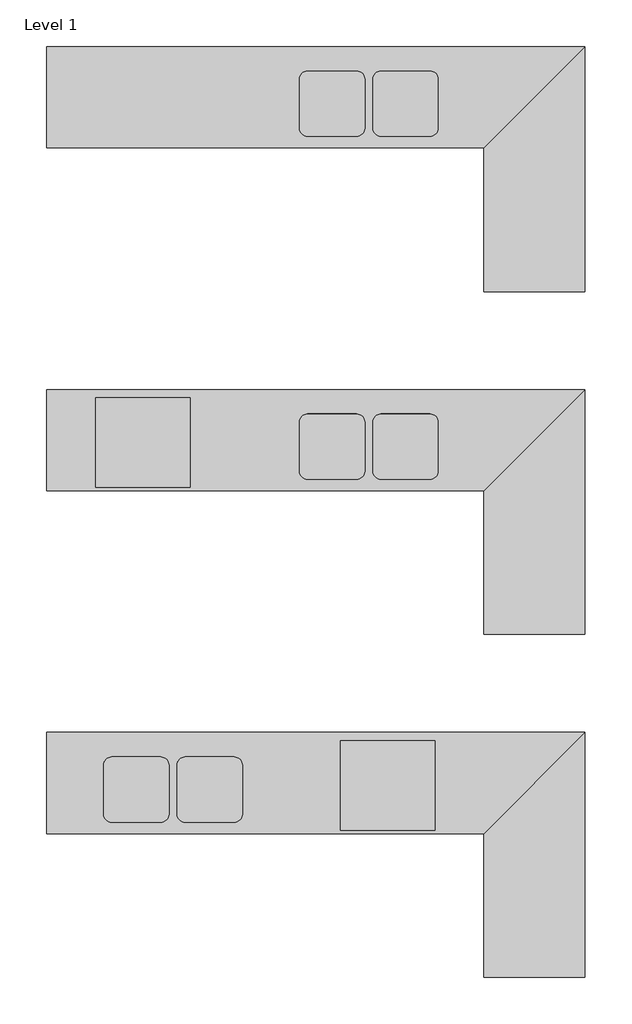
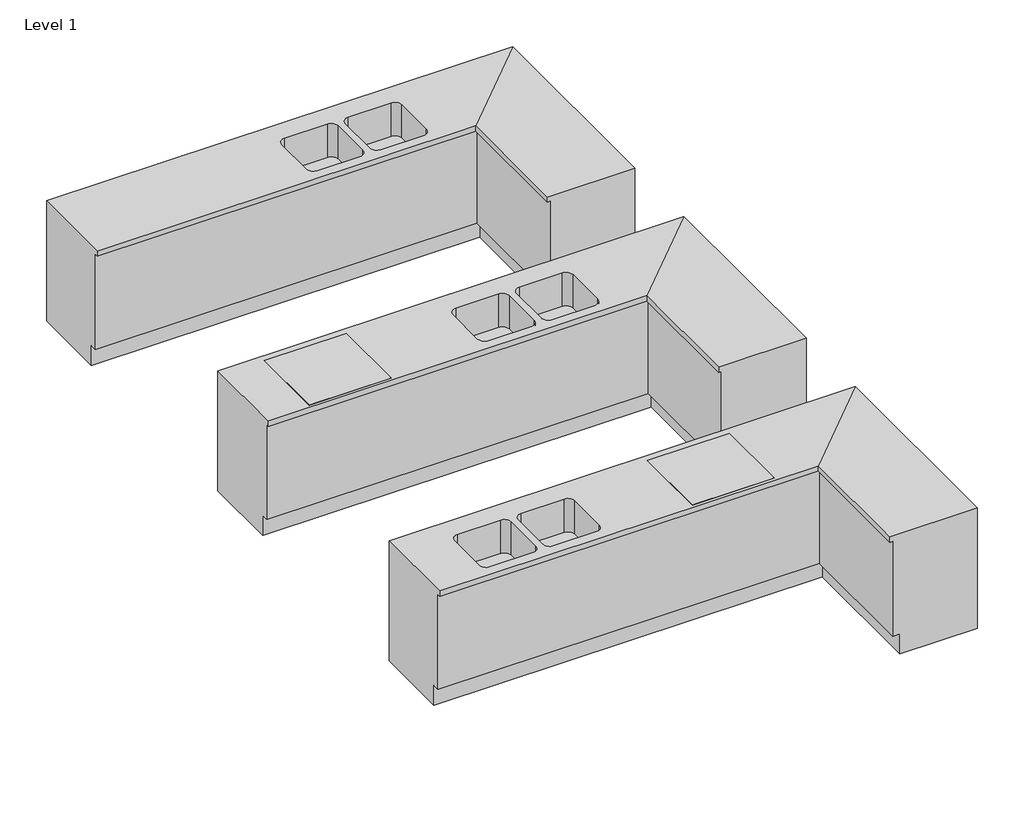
# One storey: 3 furniture elements.
"""IFC4 building model written with IfcOpenShell, lengths in millimetres."""

import ifcopenshell
import ifcopenshell.guid

model = None  # the IFC model being written
_history = None  # IfcOwnerHistory: only IFC2X3 demands one
_inside = {}  # id of a spatial element -> (the spatial element, [elements in it])
_under = {}  # id of a project, library or spatial element -> (it, [spatial elements below it])
_declared = {}  # id of a project -> (the project, [libraries it declares])
_typed = {}  # id of a type object -> (the type object, [elements of that type])
_made_of = {}  # id of a material, layer set ... -> (it, [elements and type objects made of it])


def new_model(schema):
    """Start an empty IFC model of exactly this schema.

    Asked for "IFC4X3", IfcOpenShell would pick the latest addendum, in which some entities
    have other attributes; the version numbers below select the first issue.
    IFC2X3 requires an IfcOwnerHistory on every rooted entity: one is made here for all.
    """
    global model, _history
    if schema == "IFC4X3":
        model = ifcopenshell.file(schema_version=(4, 3, 0, 0))
    else:
        model = ifcopenshell.file(schema=schema)
    _inside.clear()
    _under.clear()
    _declared.clear()
    _typed.clear()
    _made_of.clear()
    _history = None
    if model.schema == "IFC2X3":
        org = make("IfcOrganization", Name="unknown")
        user = make(
            "IfcPersonAndOrganization",
            ThePerson=make("IfcPerson", FamilyName="unknown"),
            TheOrganization=org,
        )
        app = make(
            "IfcApplication",
            ApplicationDeveloper=org,
            Version="unknown",
            ApplicationFullName="unknown",
            ApplicationIdentifier="unknown",
        )
        _history = make(
            "IfcOwnerHistory",
            OwningUser=user,
            OwningApplication=app,
            ChangeAction="ADDED",
            CreationDate=0,
        )
    return model


def make(cls, **values):
    """One entity of the class cls with the attributes given. An attribute that is None is left unset."""
    return model.create_entity(
        cls, **{name: value for name, value in values.items() if value is not None}
    )


def rooted(cls, **values):
    """An entity with a GlobalId (a new one), such as an element, a storey or a relation."""
    return make(cls, GlobalId=ifcopenshell.guid.new(), OwnerHistory=_history, **values)


def si_unit(unit_type, name, prefix=None):
    """IfcSIUnit, for example si_unit("LENGTHUNIT", "METRE", prefix="MILLI")."""
    return make("IfcSIUnit", UnitType=unit_type, Prefix=prefix, Name=name)


def assignment(units):
    """IfcUnitAssignment: the units of a project."""
    return None if units is None else make("IfcUnitAssignment", Units=units)


def point(xyz):
    """IfcCartesianPoint."""
    return None if xyz is None else make("IfcCartesianPoint", Coordinates=xyz)


def direction(xyz):
    """IfcDirection."""
    return None if xyz is None else make("IfcDirection", DirectionRatios=xyz)


def frame(location, z_axis=None, x_axis=None):
    """IfcAxis2Placement3D, a coordinate frame: its origin and axes. An axis left out is left unset."""
    return make(
        "IfcAxis2Placement3D",
        Location=point(location),
        Axis=direction(z_axis),
        RefDirection=direction(x_axis),
    )


def origin():
    """The frame at (0, 0, 0) with its axes left unset."""
    return frame((0.0, 0.0, 0.0))


def place(relative_to, where):
    """IfcLocalPlacement: puts the frame where relative to a parent placement (None: the world)."""
    return make(
        "IfcLocalPlacement", PlacementRelTo=relative_to, RelativePlacement=where
    )


def context(
    kind, dimensions, precision=None, world=None, true_north=None, identifier=None
):
    """IfcGeometricRepresentationContext, for example the 3D "Model" context."""
    return make(
        "IfcGeometricRepresentationContext",
        ContextIdentifier=identifier,
        ContextType=kind,
        CoordinateSpaceDimension=dimensions,
        Precision=precision,
        WorldCoordinateSystem=world,
        TrueNorth=true_north,
    )


def project(units=None, contexts=None):
    """IfcProject with its units and contexts."""
    return rooted(
        "IfcProject",
        Name="project",
        RepresentationContexts=contexts,
        UnitsInContext=assignment(units),
    )


def spatial(cls, under=None, at=None, **own):
    """A site, building, storey or space (cls), placed at a placement, below another one or the project."""
    s = rooted(cls, ObjectPlacement=at, **own)
    if under is not None:
        _under.setdefault(under.id(), (under, []))[1].append(s)
    return s


def polyline(points):
    """IfcPolyline through the points."""
    return make("IfcPolyline", Points=[point(p) for p in points])


def circle_curve(where, radius):
    """IfcCircle in the frame where."""
    return make("IfcCircle", Position=where, Radius=radius)


def outline(outer, holes=None, kind="AREA"):
    """IfcArbitraryClosedProfileDef: a profile drawn as a closed curve; with holes, ...WithVoids."""
    if holes is None:
        return make("IfcArbitraryClosedProfileDef", ProfileType=kind, OuterCurve=outer)
    return make(
        "IfcArbitraryProfileDefWithVoids",
        ProfileType=kind,
        OuterCurve=outer,
        InnerCurves=holes,
    )


def extrude(swept, where, along, depth):
    """IfcExtrudedAreaSolid: the profile swept, set in the frame where, extruded along a direction by depth."""
    return make(
        "IfcExtrudedAreaSolid",
        SweptArea=swept,
        Position=where,
        ExtrudedDirection=direction(along),
        Depth=depth,
    )


def shape(context_of_items, identifier, shape_type, items):
    """IfcShapeRepresentation: the items that make up one representation, for example the "Body"."""
    return make(
        "IfcShapeRepresentation",
        ContextOfItems=context_of_items,
        RepresentationIdentifier=identifier,
        RepresentationType=shape_type,
        Items=items,
    )


def source(mapping_origin, context_of_items, identifier, shape_type, items):
    """IfcRepresentationMap: a shape defined once, which mapped items show again and again."""
    return make(
        "IfcRepresentationMap",
        MappingOrigin=mapping_origin,
        MappedRepresentation=shape(context_of_items, identifier, shape_type, items),
    )


def transform(
    local_origin,
    x_axis=None,
    y_axis=None,
    z_axis=None,
    scale=None,
    scale2=None,
    scale3=None,
    uniform=True,
):
    """IfcCartesianTransformationOperator3D, or its non-uniform kind. x_axis, y_axis, z_axis: its Axis1, 2, 3."""
    if uniform:
        return make(
            "IfcCartesianTransformationOperator3D",
            Axis1=direction(x_axis),
            Axis2=direction(y_axis),
            LocalOrigin=point(local_origin),
            Scale=scale,
            Axis3=direction(z_axis),
        )
    return make(
        "IfcCartesianTransformationOperator3DnonUniform",
        Axis1=direction(x_axis),
        Axis2=direction(y_axis),
        LocalOrigin=point(local_origin),
        Scale=scale,
        Axis3=direction(z_axis),
        Scale2=scale2,
        Scale3=scale3,
    )


def mapped(mapping_source, mapping_target):
    """IfcMappedItem: shows the shape of a source again, moved by a transform."""
    return make(
        "IfcMappedItem", MappingSource=mapping_source, MappingTarget=mapping_target
    )


def made_of(thing, what):
    """Note that an element or type object is made of a material, layer set ...; save() writes the relation."""
    if what is not None:
        _made_of.setdefault(what.id(), (what, []))[1].append(thing)
    return thing


def element(
    cls,
    number,
    at=None,
    inside=None,
    cuts=None,
    type_object=None,
    material=None,
    context=None,
    identifier="Body",
    shape_type=None,
    held_by="IfcProductDefinitionShape",
    body=None,
    shapes=None,
    **own,
):
    """One element of the class cls, such as IfcWall. Its Tag is "e" and its number.

    at: its placement. inside: the storey or other place that contains it. cuts: it is an
    opening in that element (IfcRelVoidsElement). A single representation is given by context,
    identifier, shape_type and body (its items); several are given by shapes. held_by: the class
    of the entity that holds the representations. save() writes the other relations.
    """
    e = rooted(cls, Tag="e%d" % number, ObjectPlacement=at, **own)
    if body is not None:
        shapes = [shape(context, identifier, shape_type, body)]
    if shapes is not None:
        e.Representation = make(held_by, Representations=shapes)
    if inside is not None:
        _inside.setdefault(inside.id(), (inside, []))[1].append(e)
    if cuts is not None:
        rooted(
            "IfcRelVoidsElement", RelatingBuildingElement=cuts, RelatedOpeningElement=e
        )
    if type_object is not None:
        _typed.setdefault(type_object.id(), (type_object, []))[1].append(e)
    return made_of(e, material)


def aggregate(whole, parts):
    """IfcRelAggregates: a whole, such as a stair, and the parts it consists of."""
    return rooted("IfcRelAggregates", RelatingObject=whole, RelatedObjects=parts)


def save(model, path):
    """Write the relations noted so far, then the file.

    IfcRelAggregates (storeys below a building ...), IfcRelContainedInSpatialStructure (elements
    in a storey), IfcRelDefinesByType, IfcRelAssociatesMaterial and IfcRelDeclares: one each for
    every whole, place, type object, material and project.
    """
    for whole, parts in _under.values():
        aggregate(whole, parts)
    for where, things in _inside.values():
        rooted(
            "IfcRelContainedInSpatialStructure",
            RelatedElements=things,
            RelatingStructure=where,
        )
    for kind, things in _typed.values():
        rooted("IfcRelDefinesByType", RelatedObjects=things, RelatingType=kind)
    for what, things in _made_of.values():
        rooted("IfcRelAssociatesMaterial", RelatedObjects=things, RelatingMaterial=what)
    for by, libraries in _declared.values():
        rooted("IfcRelDeclares", RelatingContext=by, RelatedDefinitions=libraries)
    model.write(path)


def plane_surface(at):
    """IfcPlane: the flat surface through the origin of the frame at, square to its z axis."""
    return make("IfcPlane", Position=at)


def revolved_surface(curve, axis_point, axis_direction):
    """IfcSurfaceOfRevolution: the curve turned about the line through axis_point along axis_direction."""
    return make(
        "IfcSurfaceOfRevolution",
        SweptCurve=make("IfcArbitraryOpenProfileDef", ProfileType="CURVE", Curve=curve),
        AxisPosition=make("IfcAxis1Placement", Location=point(axis_point), Axis=direction(axis_direction)),
    )


def advanced_brep(points, edges, surfaces, faces):
    """IfcAdvancedBrep: a solid bounded by faces that lie on surfaces and meet in shared edges.

    An edge is (start, end): straight between two places in points (the first is 0);
    or (start, end, curve); or (start, end, curve, False) where it runs against its curve.
    A face is (place in surfaces, loops), or (place, loops, False) where it looks against
    its surface's normal. A loop lists edges by number (the first is 1), with a minus sign
    where the edge is run from its end to its start. The first loop is the outer one.
    """
    corners = [point(p) for p in points]
    vertices = [make("IfcVertexPoint", VertexGeometry=c) for c in corners]
    made = []
    for start, end, *more in edges:
        made.append(
            make(
                "IfcEdgeCurve",
                EdgeStart=vertices[start],
                EdgeEnd=vertices[end],
                EdgeGeometry=more[0] if more else make("IfcPolyline", Points=[corners[start], corners[end]]),
                SameSense=more[1] if len(more) > 1 else True,
            )
        )
    hull = []
    for where, loops, *sense in faces:
        bounds = []
        for j, loop in enumerate(loops):
            ring = [make("IfcOrientedEdge", EdgeElement=made[abs(k) - 1], Orientation=k > 0) for k in loop]
            bounds.append(
                make(
                    "IfcFaceOuterBound" if j == 0 else "IfcFaceBound",
                    Bound=make("IfcEdgeLoop", EdgeList=ring),
                    Orientation=True,
                )
            )
        hull.append(make("IfcAdvancedFace", Bounds=bounds, FaceSurface=surfaces[where], SameSense=sense[0] if sense else True))
    return make("IfcAdvancedBrep", Outer=make("IfcClosedShell", CfsFaces=hull))


def furniture_9805b7c2(model_context):
    return source(origin(), model_context, "Body", "AdvancedBrep", [
        advanced_brep(
        [(-2769.8761694, -550.0, 0.0), (-2769.8761694, -550.0, 150.0), (-2769.8761694, -600.0, 150.0), (-2769.8761694, -600.0, 860.0), (-2769.8761694, -620.0, 860.0), (-2769.8761694, -620.0, 900.0), (-2769.8761694, 0.0, 900.0), (-2769.8761694, 0.0, 0.0), (-19.8761694, -550.0, 0.0), (-19.8761694, -550.0, 150.0), (-69.8761694, -600.0, 150.0), (-69.8761694, -600.0, 860.0), (-89.8761694, -620.0, 860.0), (-89.8761694, -620.0, 900.0), (530.1238306, 0.0, 900.0), (-1169.8761694, -150.0, 900.0), (-869.8761694, -150.0, 900.0), (-819.8761694, -200.0, 900.0), (-819.8761694, -500.0, 900.0), (-869.8761694, -550.0, 900.0), (-1169.8761694, -550.0, 900.0), (-1219.8761694, -500.0, 900.0), (-1219.8761694, -200.0, 900.0), (-719.8761694, -150.0, 900.0), (-419.8761694, -150.0, 900.0), (-369.8761694, -200.0, 900.0), (-369.8761694, -500.0, 900.0), (-419.8761694, -550.0, 900.0), (-719.8761694, -550.0, 900.0), (-769.8761694, -500.0, 900.0), (-769.8761694, -200.0, 900.0), (530.1238306, 0.0, 0.0), (-19.8761694, -1500.0, 0.0), (530.1238306, -1500.0, 0.0), (530.1238306, -1500.0, 900.0), (-89.8761694, -1500.0, 900.0), (-89.8761694, -1500.0, 860.0), (-69.8761694, -1500.0, 860.0), (-69.8761694, -1500.0, 150.0), (-19.8761694, -1500.0, 150.0), (-869.8761694, -150.0, 650.0), (-1169.8761694, -150.0, 650.0), (-1219.8761694, -200.0, 650.0), (-1219.8761694, -500.0, 650.0), (-1169.8761694, -550.0, 650.0), (-869.8761694, -550.0, 650.0), (-819.8761694, -500.0, 650.0), (-819.8761694, -200.0, 650.0), (-419.8761694, -150.0, 650.0), (-719.8761694, -150.0, 650.0), (-769.8761694, -200.0, 650.0), (-769.8761694, -500.0, 650.0), (-719.8761694, -550.0, 650.0), (-419.8761694, -550.0, 650.0), (-369.8761694, -500.0, 650.0), (-369.8761694, -200.0, 650.0)],
        [
            (0, 1),
            (1, 2),
            (2, 3),
            (3, 4),
            (4, 5),
            (5, 6),
            (6, 7),
            (7, 0),
            (0, 8),
            (8, 9),
            (9, 1),
            (9, 10),
            (10, 2),
            (10, 11),
            (11, 3),
            (11, 12),
            (12, 4),
            (12, 13),
            (13, 5),
            (13, 14),
            (14, 6),
            (15, 16),
            (16, 17, circle_curve(frame((-869.8761694, -200.0, 900.0), z_axis=(0.0, 0.0, -1.0), x_axis=(0.0, -1.0, 0.0)), 50.0)),
            (17, 18),
            (18, 19, circle_curve(frame((-869.8761694, -500.0, 900.0), z_axis=(0.0, 0.0, -1.0), x_axis=(0.0, -1.0, 0.0)), 50.0)),
            (19, 20),
            (20, 21, circle_curve(frame((-1169.8761694, -500.0, 900.0), z_axis=(0.0, 0.0, -1.0), x_axis=(0.0, -1.0, 0.0)), 50.0)),
            (21, 22),
            (22, 15, circle_curve(frame((-1169.8761694, -200.0, 900.0), z_axis=(0.0, 0.0, -1.0), x_axis=(0.0, -1.0, 0.0)), 50.0)),
            (23, 24),
            (24, 25, circle_curve(frame((-419.8761694, -200.0, 900.0), z_axis=(0.0, 0.0, -1.0), x_axis=(0.0, -1.0, 0.0)), 50.0)),
            (25, 26),
            (26, 27, circle_curve(frame((-419.8761694, -500.0, 900.0), z_axis=(0.0, 0.0, -1.0), x_axis=(0.0, -1.0, 0.0)), 50.0)),
            (27, 28),
            (28, 29, circle_curve(frame((-719.8761694, -500.0, 900.0), z_axis=(0.0, 0.0, -1.0), x_axis=(0.0, -1.0, 0.0)), 50.0)),
            (29, 30),
            (30, 23, circle_curve(frame((-719.8761694, -200.0, 900.0), z_axis=(0.0, 0.0, -1.0), x_axis=(0.0, -1.0, 0.0)), 50.0)),
            (14, 31),
            (31, 7),
            (31, 8),
            (32, 33),
            (33, 34),
            (34, 35),
            (35, 36),
            (36, 37),
            (37, 38),
            (38, 39),
            (39, 32),
            (8, 32),
            (39, 9),
            (38, 10),
            (37, 11),
            (36, 12),
            (35, 13),
            (34, 14),
            (33, 31),
            (40, 41),
            (41, 42, circle_curve(frame((-1169.8761694, -200.0, 650.0), z_axis=(0.0, 0.0, 1.0), x_axis=(0.0, -1.0, 0.0)), 50.0)),
            (42, 43),
            (43, 44, circle_curve(frame((-1169.8761694, -500.0, 650.0), z_axis=(0.0, 0.0, 1.0), x_axis=(0.0, -1.0, 0.0)), 50.0)),
            (44, 45),
            (45, 46, circle_curve(frame((-869.8761694, -500.0, 650.0), z_axis=(0.0, 0.0, 1.0), x_axis=(0.0, -1.0, 0.0)), 50.0)),
            (46, 47),
            (47, 40, circle_curve(frame((-869.8761694, -200.0, 650.0), z_axis=(0.0, 0.0, 1.0), x_axis=(0.0, -1.0, 0.0)), 50.0)),
            (40, 16),
            (15, 41),
            (22, 42),
            (21, 43),
            (20, 44),
            (19, 45),
            (18, 46),
            (17, 47),
            (48, 49),
            (49, 50, circle_curve(frame((-719.8761694, -200.0, 650.0), z_axis=(0.0, 0.0, 1.0), x_axis=(0.0, -1.0, 0.0)), 50.0)),
            (50, 51),
            (51, 52, circle_curve(frame((-719.8761694, -500.0, 650.0), z_axis=(0.0, 0.0, 1.0), x_axis=(0.0, -1.0, 0.0)), 50.0)),
            (52, 53),
            (53, 54, circle_curve(frame((-419.8761694, -500.0, 650.0), z_axis=(0.0, 0.0, 1.0), x_axis=(0.0, -1.0, 0.0)), 50.0)),
            (54, 55),
            (55, 48, circle_curve(frame((-419.8761694, -200.0, 650.0), z_axis=(0.0, 0.0, 1.0), x_axis=(0.0, -1.0, 0.0)), 50.0)),
            (48, 24),
            (23, 49),
            (30, 50),
            (29, 51),
            (28, 52),
            (27, 53),
            (26, 54),
            (25, 55),
        ],
        [
            plane_surface(frame((-2769.8761694, 0.0, -1092.8860874), z_axis=(-1.0, 0.0, 0.0), x_axis=(0.0, 1.0, 0.0))),
            plane_surface(frame((-2769.8761694, -550.0, 0.0), z_axis=(0.0, -1.0, 0.0), x_axis=(1.0, 0.0, 0.0))),
            plane_surface(frame((-2769.8761694, -550.0, 150.0), z_axis=(0.0, 0.0, -1.0), x_axis=(1.0, 0.0, 0.0))),
            plane_surface(frame((-2769.8761694, -600.0, 150.0), z_axis=(0.0, -1.0, 0.0), x_axis=(1.0, 0.0, 0.0))),
            plane_surface(frame((-2769.8761694, -600.0, 860.0), z_axis=(0.0, 0.0, -1.0), x_axis=(1.0, 0.0, 0.0))),
            plane_surface(frame((-2769.8761694, -620.0, 860.0), z_axis=(0.0, -1.0, 0.0), x_axis=(1.0, 0.0, 0.0))),
            plane_surface(frame((-2769.8761694, -620.0, 900.0), z_axis=(0.0, 0.0, 1.0), x_axis=(1.0, 0.0, 0.0))),
            plane_surface(frame((-2769.8761694, 0.0, 900.0), z_axis=(0.0, 1.0, 0.0), x_axis=(1.0, 0.0, 0.0))),
            plane_surface(frame((-2769.8761694, 0.0, 0.0), z_axis=(0.0, 0.0, -1.0), x_axis=(1.0, 0.0, 0.0))),
            plane_surface(frame((-562.7622567, -1500.0, 0.0), z_axis=(0.0, -1.0, 0.0), x_axis=(0.0, 0.0, -1.0))),
            plane_surface(frame((-19.8761694, -550.0, 0.0), z_axis=(-1.0, 0.0, 0.0), x_axis=(0.0, -1.0, 0.0))),
            plane_surface(frame((-19.8761694, -550.0, 150.0), z_axis=(0.0, 0.0, -1.0), x_axis=(0.0, -1.0, 0.0))),
            plane_surface(frame((-69.8761694, -600.0, 150.0), z_axis=(-1.0, 0.0, 0.0), x_axis=(0.0, -1.0, 0.0))),
            plane_surface(frame((-69.8761694, -600.0, 860.0), z_axis=(0.0, 0.0, -1.0), x_axis=(0.0, -1.0, 0.0))),
            plane_surface(frame((-89.8761694, -620.0, 860.0), z_axis=(-1.0, 0.0, 0.0), x_axis=(0.0, -1.0, 0.0))),
            plane_surface(frame((-89.8761694, -620.0, 900.0), z_axis=(0.0, 0.0, 1.0), x_axis=(0.0, -1.0, 0.0))),
            plane_surface(frame((530.1238306, 0.0, 900.0), z_axis=(1.0, 0.0, 0.0), x_axis=(0.0, -1.0, 0.0))),
            plane_surface(frame((530.1238306, 0.0, 0.0), z_axis=(0.0, 0.0, -1.0), x_axis=(0.0, -1.0, 0.0))),
            plane_surface(frame((-1169.8761694, -150.0, 650.0), z_axis=(0.0, 0.0, 1.0), x_axis=(1.0, 0.0, 0.0))),
            plane_surface(frame((-869.8761694, -150.0, 900.0), z_axis=(0.0, -1.0, 0.0), x_axis=(0.0, 0.0, -1.0))),
            revolved_surface(polyline([(-1169.8761694, -250.0, 900.0), (-1169.8761694, -250.0, 650.0)]), (-1169.8761694, -200.0, 650.0), (0.0, 0.0, 1.0)),
            plane_surface(frame((-1219.8761694, -200.0, 900.0), z_axis=(1.0, 0.0, 0.0), x_axis=(0.0, 0.0, -1.0))),
            revolved_surface(polyline([(-1169.8761694, -550.0, 900.0), (-1169.8761694, -550.0, 650.0)]), (-1169.8761694, -500.0, 650.0), (0.0, 0.0, 1.0)),
            plane_surface(frame((-1169.8761694, -550.0, 900.0), z_axis=(0.0, 1.0, 0.0), x_axis=(0.0, 0.0, -1.0))),
            revolved_surface(polyline([(-869.8761694, -550.0, 900.0), (-869.8761694, -550.0, 650.0)]), (-869.8761694, -500.0, 650.0), (0.0, 0.0, 1.0)),
            plane_surface(frame((-819.8761694, -500.0, 900.0), z_axis=(-1.0, 0.0, 0.0), x_axis=(0.0, 0.0, -1.0))),
            revolved_surface(polyline([(-869.8761694, -250.0, 900.0), (-869.8761694, -250.0, 650.0)]), (-869.8761694, -200.0, 650.0), (0.0, 0.0, 1.0)),
            plane_surface(frame((-719.8761694, -150.0, 650.0), z_axis=(0.0, 0.0, 1.0), x_axis=(1.0, 0.0, 0.0))),
            plane_surface(frame((-419.8761694, -150.0, 900.0), z_axis=(0.0, -1.0, 0.0), x_axis=(0.0, 0.0, -1.0))),
            revolved_surface(polyline([(-719.8761694, -250.0, 900.0), (-719.8761694, -250.0, 650.0)]), (-719.8761694, -200.0, 650.0), (0.0, 0.0, 1.0)),
            plane_surface(frame((-769.8761694, -200.0, 900.0), z_axis=(1.0, 0.0, 0.0), x_axis=(0.0, 0.0, -1.0))),
            revolved_surface(polyline([(-719.8761694, -550.0, 900.0), (-719.8761694, -550.0, 650.0)]), (-719.8761694, -500.0, 650.0), (0.0, 0.0, 1.0)),
            plane_surface(frame((-719.8761694, -550.0, 900.0), z_axis=(0.0, 1.0, 0.0), x_axis=(0.0, 0.0, -1.0))),
            revolved_surface(polyline([(-419.8761694, -550.0, 900.0), (-419.8761694, -550.0, 650.0)]), (-419.8761694, -500.0, 650.0), (0.0, 0.0, 1.0)),
            plane_surface(frame((-369.8761694, -500.0, 900.0), z_axis=(-1.0, 0.0, 0.0), x_axis=(0.0, 0.0, -1.0))),
            revolved_surface(polyline([(-419.8761694, -250.0, 900.0), (-419.8761694, -250.0, 650.0)]), (-419.8761694, -200.0, 650.0), (0.0, 0.0, 1.0)),
        ],
        [
            (0, [[1, 2, 3, 4, 5, 6, 7, 8]]),
            (1, [[-1, 9, 10, 11]]),
            (2, [[-2, -11, 12, 13]]),
            (3, [[-3, -13, 14, 15]]),
            (4, [[-4, -15, 16, 17]]),
            (5, [[-5, -17, 18, 19]]),
            (6, [[-6, -19, 20, 21], [22, 23, 24, 25, 26, 27, 28, 29], [30, 31, 32, 33, 34, 35, 36, 37]]),
            (7, [[-7, -21, 38, 39]]),
            (8, [[-8, -39, 40, -9]]),
            (9, [[41, 42, 43, 44, 45, 46, 47, 48]]),
            (10, [[-10, 49, -48, 50]]),
            (11, [[-12, -50, -47, 51]]),
            (12, [[-14, -51, -46, 52]]),
            (13, [[-16, -52, -45, 53]]),
            (14, [[-18, -53, -44, 54]]),
            (15, [[-20, -54, -43, 55]]),
            (16, [[-38, -55, -42, 56]]),
            (17, [[-40, -56, -41, -49]]),
            (18, [[57, 58, 59, 60, 61, 62, 63, 64]]),
            (19, [[-57, 65, -22, 66]]),
            (20, [[-58, -66, -29, 67]]),
            (21, [[-59, -67, -28, 68]]),
            (22, [[-60, -68, -27, 69]]),
            (23, [[-61, -69, -26, 70]]),
            (24, [[-62, -70, -25, 71]]),
            (25, [[-63, -71, -24, 72]]),
            (26, [[-64, -72, -23, -65]]),
            (27, [[73, 74, 75, 76, 77, 78, 79, 80]]),
            (28, [[-73, 81, -30, 82]]),
            (29, [[-74, -82, -37, 83]]),
            (30, [[-75, -83, -36, 84]]),
            (31, [[-76, -84, -35, 85]]),
            (32, [[-77, -85, -34, 86]]),
            (33, [[-78, -86, -33, 87]]),
            (34, [[-79, -87, -32, 88]]),
            (35, [[-80, -88, -31, -81]]),
        ],
    ),
    ])


def bak_links_381d0626(model_context):
    return source(origin(), model_context, "Body", "SolidModel", [
        extrude(outline(polyline([(-389.8761694, -50.0), (-389.8761694, -600.0), (-969.8761694, -600.0), (-969.8761694, -50.0), (-389.8761694, -50.0)])), frame((0.0, 0.0, 900.0), z_axis=(0.0, 0.0, 1.0), x_axis=(1.0, 0.0, 0.0)), (0.0, 0.0, 1.0), 2.0),
        advanced_brep(
        [(-2769.8761694, -550.0, 0.0), (-2769.8761694, -550.0, 150.0), (-2769.8761694, -600.0, 150.0), (-2769.8761694, -600.0, 860.0), (-2769.8761694, -620.0, 860.0), (-2769.8761694, -620.0, 900.0), (-2769.8761694, 0.0, 900.0), (-2769.8761694, 0.0, 0.0), (-19.8761694, -550.0, 0.0), (-19.8761694, -550.0, 150.0), (-69.8761694, -600.0, 150.0), (-69.8761694, -600.0, 860.0), (-89.8761694, -620.0, 860.0), (-89.8761694, -620.0, 900.0), (530.1238306, 0.0, 900.0), (-2369.8761694, -150.0, 900.0), (-2069.8761694, -150.0, 900.0), (-2019.8761694, -200.0, 900.0), (-2019.8761694, -500.0, 900.0), (-2069.8761694, -550.0, 900.0), (-2369.8761694, -550.0, 900.0), (-2419.8761694, -500.0, 900.0), (-2419.8761694, -200.0, 900.0), (-1919.8761694, -150.0, 900.0), (-1619.8761694, -150.0, 900.0), (-1569.8761694, -200.0, 900.0), (-1569.8761694, -500.0, 900.0), (-1619.8761694, -550.0, 900.0), (-1919.8761694, -550.0, 900.0), (-1969.8761694, -500.0, 900.0), (-1969.8761694, -200.0, 900.0), (530.1238306, 0.0, 0.0), (-19.8761694, -1500.0, 0.0), (530.1238306, -1500.0, 0.0), (530.1238306, -1500.0, 900.0), (-89.8761694, -1500.0, 900.0), (-89.8761694, -1500.0, 860.0), (-69.8761694, -1500.0, 860.0), (-69.8761694, -1500.0, 150.0), (-19.8761694, -1500.0, 150.0), (-2069.8761694, -150.0, 650.0), (-2369.8761694, -150.0, 650.0), (-2419.8761694, -200.0, 650.0), (-2419.8761694, -500.0, 650.0), (-2369.8761694, -550.0, 650.0), (-2069.8761694, -550.0, 650.0), (-2019.8761694, -500.0, 650.0), (-2019.8761694, -200.0, 650.0), (-1619.8761694, -150.0, 650.0), (-1919.8761694, -150.0, 650.0), (-1969.8761694, -200.0, 650.0), (-1969.8761694, -500.0, 650.0), (-1919.8761694, -550.0, 650.0), (-1619.8761694, -550.0, 650.0), (-1569.8761694, -500.0, 650.0), (-1569.8761694, -200.0, 650.0)],
        [
            (0, 1),
            (1, 2),
            (2, 3),
            (3, 4),
            (4, 5),
            (5, 6),
            (6, 7),
            (7, 0),
            (0, 8),
            (8, 9),
            (9, 1),
            (9, 10),
            (10, 2),
            (10, 11),
            (11, 3),
            (11, 12),
            (12, 4),
            (12, 13),
            (13, 5),
            (13, 14),
            (14, 6),
            (15, 16),
            (16, 17, circle_curve(frame((-2069.8761694, -200.0, 900.0), z_axis=(0.0, 0.0, -1.0), x_axis=(0.0, -1.0, 0.0)), 50.0)),
            (17, 18),
            (18, 19, circle_curve(frame((-2069.8761694, -500.0, 900.0), z_axis=(0.0, 0.0, -1.0), x_axis=(0.0, -1.0, 0.0)), 50.0)),
            (19, 20),
            (20, 21, circle_curve(frame((-2369.8761694, -500.0, 900.0), z_axis=(0.0, 0.0, -1.0), x_axis=(0.0, -1.0, 0.0)), 50.0)),
            (21, 22),
            (22, 15, circle_curve(frame((-2369.8761694, -200.0, 900.0), z_axis=(0.0, 0.0, -1.0), x_axis=(0.0, -1.0, 0.0)), 50.0)),
            (23, 24),
            (24, 25, circle_curve(frame((-1619.8761694, -200.0, 900.0), z_axis=(0.0, 0.0, -1.0), x_axis=(0.0, -1.0, 0.0)), 50.0)),
            (25, 26),
            (26, 27, circle_curve(frame((-1619.8761694, -500.0, 900.0), z_axis=(0.0, 0.0, -1.0), x_axis=(0.0, -1.0, 0.0)), 50.0)),
            (27, 28),
            (28, 29, circle_curve(frame((-1919.8761694, -500.0, 900.0), z_axis=(0.0, 0.0, -1.0), x_axis=(0.0, -1.0, 0.0)), 50.0)),
            (29, 30),
            (30, 23, circle_curve(frame((-1919.8761694, -200.0, 900.0), z_axis=(0.0, 0.0, -1.0), x_axis=(0.0, -1.0, 0.0)), 50.0)),
            (14, 31),
            (31, 7),
            (31, 8),
            (32, 33),
            (33, 34),
            (34, 35),
            (35, 36),
            (36, 37),
            (37, 38),
            (38, 39),
            (39, 32),
            (8, 32),
            (39, 9),
            (38, 10),
            (37, 11),
            (36, 12),
            (35, 13),
            (34, 14),
            (33, 31),
            (40, 41),
            (41, 42, circle_curve(frame((-2369.8761694, -200.0, 650.0), z_axis=(0.0, 0.0, 1.0), x_axis=(0.0, -1.0, 0.0)), 50.0)),
            (42, 43),
            (43, 44, circle_curve(frame((-2369.8761694, -500.0, 650.0), z_axis=(0.0, 0.0, 1.0), x_axis=(0.0, -1.0, 0.0)), 50.0)),
            (44, 45),
            (45, 46, circle_curve(frame((-2069.8761694, -500.0, 650.0), z_axis=(0.0, 0.0, 1.0), x_axis=(0.0, -1.0, 0.0)), 50.0)),
            (46, 47),
            (47, 40, circle_curve(frame((-2069.8761694, -200.0, 650.0), z_axis=(0.0, 0.0, 1.0), x_axis=(0.0, -1.0, 0.0)), 50.0)),
            (40, 16),
            (15, 41),
            (22, 42),
            (21, 43),
            (20, 44),
            (19, 45),
            (18, 46),
            (17, 47),
            (48, 49),
            (49, 50, circle_curve(frame((-1919.8761694, -200.0, 650.0), z_axis=(0.0, 0.0, 1.0), x_axis=(0.0, -1.0, 0.0)), 50.0)),
            (50, 51),
            (51, 52, circle_curve(frame((-1919.8761694, -500.0, 650.0), z_axis=(0.0, 0.0, 1.0), x_axis=(0.0, -1.0, 0.0)), 50.0)),
            (52, 53),
            (53, 54, circle_curve(frame((-1619.8761694, -500.0, 650.0), z_axis=(0.0, 0.0, 1.0), x_axis=(0.0, -1.0, 0.0)), 50.0)),
            (54, 55),
            (55, 48, circle_curve(frame((-1619.8761694, -200.0, 650.0), z_axis=(0.0, 0.0, 1.0), x_axis=(0.0, -1.0, 0.0)), 50.0)),
            (48, 24),
            (23, 49),
            (30, 50),
            (29, 51),
            (28, 52),
            (27, 53),
            (26, 54),
            (25, 55),
        ],
        [
            plane_surface(frame((-2769.8761694, 0.0, -1092.8860874), z_axis=(-1.0, 0.0, 0.0), x_axis=(0.0, 1.0, 0.0))),
            plane_surface(frame((-2769.8761694, -550.0, 0.0), z_axis=(0.0, -1.0, 0.0), x_axis=(1.0, 0.0, 0.0))),
            plane_surface(frame((-2769.8761694, -550.0, 150.0), z_axis=(0.0, 0.0, -1.0), x_axis=(1.0, 0.0, 0.0))),
            plane_surface(frame((-2769.8761694, -600.0, 150.0), z_axis=(0.0, -1.0, 0.0), x_axis=(1.0, 0.0, 0.0))),
            plane_surface(frame((-2769.8761694, -600.0, 860.0), z_axis=(0.0, 0.0, -1.0), x_axis=(1.0, 0.0, 0.0))),
            plane_surface(frame((-2769.8761694, -620.0, 860.0), z_axis=(0.0, -1.0, 0.0), x_axis=(1.0, 0.0, 0.0))),
            plane_surface(frame((-2769.8761694, -620.0, 900.0), z_axis=(0.0, 0.0, 1.0), x_axis=(1.0, 0.0, 0.0))),
            plane_surface(frame((-2769.8761694, 0.0, 900.0), z_axis=(0.0, 1.0, 0.0), x_axis=(1.0, 0.0, 0.0))),
            plane_surface(frame((-2769.8761694, 0.0, 0.0), z_axis=(0.0, 0.0, -1.0), x_axis=(1.0, 0.0, 0.0))),
            plane_surface(frame((-562.7622567, -1500.0, 0.0), z_axis=(0.0, -1.0, 0.0), x_axis=(0.0, 0.0, -1.0))),
            plane_surface(frame((-19.8761694, -550.0, 0.0), z_axis=(-1.0, 0.0, 0.0), x_axis=(0.0, -1.0, 0.0))),
            plane_surface(frame((-19.8761694, -550.0, 150.0), z_axis=(0.0, 0.0, -1.0), x_axis=(0.0, -1.0, 0.0))),
            plane_surface(frame((-69.8761694, -600.0, 150.0), z_axis=(-1.0, 0.0, 0.0), x_axis=(0.0, -1.0, 0.0))),
            plane_surface(frame((-69.8761694, -600.0, 860.0), z_axis=(0.0, 0.0, -1.0), x_axis=(0.0, -1.0, 0.0))),
            plane_surface(frame((-89.8761694, -620.0, 860.0), z_axis=(-1.0, 0.0, 0.0), x_axis=(0.0, -1.0, 0.0))),
            plane_surface(frame((-89.8761694, -620.0, 900.0), z_axis=(0.0, 0.0, 1.0), x_axis=(0.0, -1.0, 0.0))),
            plane_surface(frame((530.1238306, 0.0, 900.0), z_axis=(1.0, 0.0, 0.0), x_axis=(0.0, -1.0, 0.0))),
            plane_surface(frame((530.1238306, 0.0, 0.0), z_axis=(0.0, 0.0, -1.0), x_axis=(0.0, -1.0, 0.0))),
            plane_surface(frame((-2369.8761694, -150.0, 650.0), z_axis=(0.0, 0.0, 1.0), x_axis=(1.0, 0.0, 0.0))),
            plane_surface(frame((-2069.8761694, -150.0, 900.0), z_axis=(0.0, -1.0, 0.0), x_axis=(0.0, 0.0, -1.0))),
            revolved_surface(polyline([(-2369.8761694, -250.0, 900.0), (-2369.8761694, -250.0, 650.0)]), (-2369.8761694, -200.0, 650.0), (0.0, 0.0, 1.0)),
            plane_surface(frame((-2419.8761694, -200.0, 900.0), z_axis=(1.0, 0.0, 0.0), x_axis=(0.0, 0.0, -1.0))),
            revolved_surface(polyline([(-2369.8761694, -550.0, 900.0), (-2369.8761694, -550.0, 650.0)]), (-2369.8761694, -500.0, 650.0), (0.0, 0.0, 1.0)),
            plane_surface(frame((-2369.8761694, -550.0, 900.0), z_axis=(0.0, 1.0, 0.0), x_axis=(0.0, 0.0, -1.0))),
            revolved_surface(polyline([(-2069.8761694, -550.0, 900.0), (-2069.8761694, -550.0, 650.0)]), (-2069.8761694, -500.0, 650.0), (0.0, 0.0, 1.0)),
            plane_surface(frame((-2019.8761694, -500.0, 900.0), z_axis=(-1.0, 0.0, 0.0), x_axis=(0.0, 0.0, -1.0))),
            revolved_surface(polyline([(-2069.8761694, -250.0, 900.0), (-2069.8761694, -250.0, 650.0)]), (-2069.8761694, -200.0, 650.0), (0.0, 0.0, 1.0)),
            plane_surface(frame((-1919.8761694, -150.0, 650.0), z_axis=(0.0, 0.0, 1.0), x_axis=(1.0, 0.0, 0.0))),
            plane_surface(frame((-1619.8761694, -150.0, 900.0), z_axis=(0.0, -1.0, 0.0), x_axis=(0.0, 0.0, -1.0))),
            revolved_surface(polyline([(-1919.8761694, -250.0, 900.0), (-1919.8761694, -250.0, 650.0)]), (-1919.8761694, -200.0, 650.0), (0.0, 0.0, 1.0)),
            plane_surface(frame((-1969.8761694, -200.0, 900.0), z_axis=(1.0, 0.0, 0.0), x_axis=(0.0, 0.0, -1.0))),
            revolved_surface(polyline([(-1919.8761694, -550.0, 900.0), (-1919.8761694, -550.0, 650.0)]), (-1919.8761694, -500.0, 650.0), (0.0, 0.0, 1.0)),
            plane_surface(frame((-1919.8761694, -550.0, 900.0), z_axis=(0.0, 1.0, 0.0), x_axis=(0.0, 0.0, -1.0))),
            revolved_surface(polyline([(-1619.8761694, -550.0, 900.0), (-1619.8761694, -550.0, 650.0)]), (-1619.8761694, -500.0, 650.0), (0.0, 0.0, 1.0)),
            plane_surface(frame((-1569.8761694, -500.0, 900.0), z_axis=(-1.0, 0.0, 0.0), x_axis=(0.0, 0.0, -1.0))),
            revolved_surface(polyline([(-1619.8761694, -250.0, 900.0), (-1619.8761694, -250.0, 650.0)]), (-1619.8761694, -200.0, 650.0), (0.0, 0.0, 1.0)),
        ],
        [
            (0, [[1, 2, 3, 4, 5, 6, 7, 8]]),
            (1, [[-1, 9, 10, 11]]),
            (2, [[-2, -11, 12, 13]]),
            (3, [[-3, -13, 14, 15]]),
            (4, [[-4, -15, 16, 17]]),
            (5, [[-5, -17, 18, 19]]),
            (6, [[-6, -19, 20, 21], [22, 23, 24, 25, 26, 27, 28, 29], [30, 31, 32, 33, 34, 35, 36, 37]]),
            (7, [[-7, -21, 38, 39]]),
            (8, [[-8, -39, 40, -9]]),
            (9, [[41, 42, 43, 44, 45, 46, 47, 48]]),
            (10, [[-10, 49, -48, 50]]),
            (11, [[-12, -50, -47, 51]]),
            (12, [[-14, -51, -46, 52]]),
            (13, [[-16, -52, -45, 53]]),
            (14, [[-18, -53, -44, 54]]),
            (15, [[-20, -54, -43, 55]]),
            (16, [[-38, -55, -42, 56]]),
            (17, [[-40, -56, -41, -49]]),
            (18, [[57, 58, 59, 60, 61, 62, 63, 64]]),
            (19, [[-57, 65, -22, 66]]),
            (20, [[-58, -66, -29, 67]]),
            (21, [[-59, -67, -28, 68]]),
            (22, [[-60, -68, -27, 69]]),
            (23, [[-61, -69, -26, 70]]),
            (24, [[-62, -70, -25, 71]]),
            (25, [[-63, -71, -24, 72]]),
            (26, [[-64, -72, -23, -65]]),
            (27, [[73, 74, 75, 76, 77, 78, 79, 80]]),
            (28, [[-73, 81, -30, 82]]),
            (29, [[-74, -82, -37, 83]]),
            (30, [[-75, -83, -36, 84]]),
            (31, [[-76, -84, -35, 85]]),
            (32, [[-77, -85, -34, 86]]),
            (33, [[-78, -86, -33, 87]]),
            (34, [[-79, -87, -32, 88]]),
            (35, [[-80, -88, -31, -81]]),
        ],
    ),
    ])


def bak_rechts_88211681(model_context):
    return source(origin(), model_context, "Body", "SolidModel", [
        extrude(outline(polyline([(-1889.8761694, -50.0), (-1889.8761694, -600.0), (-2469.8761694, -600.0), (-2469.8761694, -50.0), (-1889.8761694, -50.0)])), frame((0.0, 0.0, 900.0), z_axis=(0.0, 0.0, 1.0), x_axis=(1.0, 0.0, 0.0)), (0.0, 0.0, 1.0), 2.0),
        advanced_brep(
        [(-2769.8761694, -550.0, 0.0), (-2769.8761694, -550.0, 150.0), (-2769.8761694, -600.0, 150.0), (-2769.8761694, -600.0, 860.0), (-2769.8761694, -620.0, 860.0), (-2769.8761694, -620.0, 900.0), (-2769.8761694, 0.0, 900.0), (-2769.8761694, 0.0, 0.0), (-19.8761694, -550.0, 0.0), (-19.8761694, -550.0, 150.0), (-69.8761694, -600.0, 150.0), (-69.8761694, -600.0, 860.0), (-89.8761694, -620.0, 860.0), (-89.8761694, -620.0, 900.0), (530.1238306, 0.0, 900.0), (-1169.8761694, -150.0, 900.0), (-869.8761694, -150.0, 900.0), (-819.8761694, -200.0, 900.0), (-819.8761694, -500.0, 900.0), (-869.8761694, -550.0, 900.0), (-1169.8761694, -550.0, 900.0), (-1219.8761694, -500.0, 900.0), (-1219.8761694, -200.0, 900.0), (-719.8761694, -150.0, 900.0), (-419.8761694, -150.0, 900.0), (-369.8761694, -200.0, 900.0), (-369.8761694, -500.0, 900.0), (-419.8761694, -550.0, 900.0), (-719.8761694, -550.0, 900.0), (-769.8761694, -500.0, 900.0), (-769.8761694, -200.0, 900.0), (530.1238306, 0.0, 0.0), (-19.8761694, -1500.0, 0.0), (530.1238306, -1500.0, 0.0), (530.1238306, -1500.0, 900.0), (-89.8761694, -1500.0, 900.0), (-89.8761694, -1500.0, 860.0), (-69.8761694, -1500.0, 860.0), (-69.8761694, -1500.0, 150.0), (-19.8761694, -1500.0, 150.0), (-869.8761694, -150.0, 650.0), (-1169.8761694, -150.0, 650.0), (-1219.8761694, -200.0, 650.0), (-1219.8761694, -500.0, 650.0), (-1169.8761694, -550.0, 650.0), (-869.8761694, -550.0, 650.0), (-819.8761694, -500.0, 650.0), (-819.8761694, -200.0, 650.0), (-419.8761694, -150.0, 650.0), (-719.8761694, -150.0, 650.0), (-769.8761694, -200.0, 650.0), (-769.8761694, -500.0, 650.0), (-719.8761694, -550.0, 650.0), (-419.8761694, -550.0, 650.0), (-369.8761694, -500.0, 650.0), (-369.8761694, -200.0, 650.0)],
        [
            (0, 1),
            (1, 2),
            (2, 3),
            (3, 4),
            (4, 5),
            (5, 6),
            (6, 7),
            (7, 0),
            (0, 8),
            (8, 9),
            (9, 1),
            (9, 10),
            (10, 2),
            (10, 11),
            (11, 3),
            (11, 12),
            (12, 4),
            (12, 13),
            (13, 5),
            (13, 14),
            (14, 6),
            (15, 16),
            (16, 17, circle_curve(frame((-869.8761694, -200.0, 900.0), z_axis=(0.0, 0.0, -1.0), x_axis=(0.0, -1.0, 0.0)), 50.0)),
            (17, 18),
            (18, 19, circle_curve(frame((-869.8761694, -500.0, 900.0), z_axis=(0.0, 0.0, -1.0), x_axis=(0.0, -1.0, 0.0)), 50.0)),
            (19, 20),
            (20, 21, circle_curve(frame((-1169.8761694, -500.0, 900.0), z_axis=(0.0, 0.0, -1.0), x_axis=(0.0, -1.0, 0.0)), 50.0)),
            (21, 22),
            (22, 15, circle_curve(frame((-1169.8761694, -200.0, 900.0), z_axis=(0.0, 0.0, -1.0), x_axis=(0.0, -1.0, 0.0)), 50.0)),
            (23, 24),
            (24, 25, circle_curve(frame((-419.8761694, -200.0, 900.0), z_axis=(0.0, 0.0, -1.0), x_axis=(0.0, -1.0, 0.0)), 50.0)),
            (25, 26),
            (26, 27, circle_curve(frame((-419.8761694, -500.0, 900.0), z_axis=(0.0, 0.0, -1.0), x_axis=(0.0, -1.0, 0.0)), 50.0)),
            (27, 28),
            (28, 29, circle_curve(frame((-719.8761694, -500.0, 900.0), z_axis=(0.0, 0.0, -1.0), x_axis=(0.0, -1.0, 0.0)), 50.0)),
            (29, 30),
            (30, 23, circle_curve(frame((-719.8761694, -200.0, 900.0), z_axis=(0.0, 0.0, -1.0), x_axis=(0.0, -1.0, 0.0)), 50.0)),
            (14, 31),
            (31, 7),
            (31, 8),
            (32, 33),
            (33, 34),
            (34, 35),
            (35, 36),
            (36, 37),
            (37, 38),
            (38, 39),
            (39, 32),
            (8, 32),
            (39, 9),
            (38, 10),
            (37, 11),
            (36, 12),
            (35, 13),
            (34, 14),
            (33, 31),
            (40, 41),
            (41, 42, circle_curve(frame((-1169.8761694, -200.0, 650.0), z_axis=(0.0, 0.0, 1.0), x_axis=(0.0, -1.0, 0.0)), 50.0)),
            (42, 43),
            (43, 44, circle_curve(frame((-1169.8761694, -500.0, 650.0), z_axis=(0.0, 0.0, 1.0), x_axis=(0.0, -1.0, 0.0)), 50.0)),
            (44, 45),
            (45, 46, circle_curve(frame((-869.8761694, -500.0, 650.0), z_axis=(0.0, 0.0, 1.0), x_axis=(0.0, -1.0, 0.0)), 50.0)),
            (46, 47),
            (47, 40, circle_curve(frame((-869.8761694, -200.0, 650.0), z_axis=(0.0, 0.0, 1.0), x_axis=(0.0, -1.0, 0.0)), 50.0)),
            (40, 16),
            (15, 41),
            (22, 42),
            (21, 43),
            (20, 44),
            (19, 45),
            (18, 46),
            (17, 47),
            (48, 49),
            (49, 50, circle_curve(frame((-719.8761694, -200.0, 650.0), z_axis=(0.0, 0.0, 1.0), x_axis=(0.0, -1.0, 0.0)), 50.0)),
            (50, 51),
            (51, 52, circle_curve(frame((-719.8761694, -500.0, 650.0), z_axis=(0.0, 0.0, 1.0), x_axis=(0.0, -1.0, 0.0)), 50.0)),
            (52, 53),
            (53, 54, circle_curve(frame((-419.8761694, -500.0, 650.0), z_axis=(0.0, 0.0, 1.0), x_axis=(0.0, -1.0, 0.0)), 50.0)),
            (54, 55),
            (55, 48, circle_curve(frame((-419.8761694, -200.0, 650.0), z_axis=(0.0, 0.0, 1.0), x_axis=(0.0, -1.0, 0.0)), 50.0)),
            (48, 24),
            (23, 49),
            (30, 50),
            (29, 51),
            (28, 52),
            (27, 53),
            (26, 54),
            (25, 55),
        ],
        [
            plane_surface(frame((-2769.8761694, 0.0, -1092.8860874), z_axis=(-1.0, 0.0, 0.0), x_axis=(0.0, 1.0, 0.0))),
            plane_surface(frame((-2769.8761694, -550.0, 0.0), z_axis=(0.0, -1.0, 0.0), x_axis=(1.0, 0.0, 0.0))),
            plane_surface(frame((-2769.8761694, -550.0, 150.0), z_axis=(0.0, 0.0, -1.0), x_axis=(1.0, 0.0, 0.0))),
            plane_surface(frame((-2769.8761694, -600.0, 150.0), z_axis=(0.0, -1.0, 0.0), x_axis=(1.0, 0.0, 0.0))),
            plane_surface(frame((-2769.8761694, -600.0, 860.0), z_axis=(0.0, 0.0, -1.0), x_axis=(1.0, 0.0, 0.0))),
            plane_surface(frame((-2769.8761694, -620.0, 860.0), z_axis=(0.0, -1.0, 0.0), x_axis=(1.0, 0.0, 0.0))),
            plane_surface(frame((-2769.8761694, -620.0, 900.0), z_axis=(0.0, 0.0, 1.0), x_axis=(1.0, 0.0, 0.0))),
            plane_surface(frame((-2769.8761694, 0.0, 900.0), z_axis=(0.0, 1.0, 0.0), x_axis=(1.0, 0.0, 0.0))),
            plane_surface(frame((-2769.8761694, 0.0, 0.0), z_axis=(0.0, 0.0, -1.0), x_axis=(1.0, 0.0, 0.0))),
            plane_surface(frame((-562.7622567, -1500.0, 0.0), z_axis=(0.0, -1.0, 0.0), x_axis=(0.0, 0.0, -1.0))),
            plane_surface(frame((-19.8761694, -550.0, 0.0), z_axis=(-1.0, 0.0, 0.0), x_axis=(0.0, -1.0, 0.0))),
            plane_surface(frame((-19.8761694, -550.0, 150.0), z_axis=(0.0, 0.0, -1.0), x_axis=(0.0, -1.0, 0.0))),
            plane_surface(frame((-69.8761694, -600.0, 150.0), z_axis=(-1.0, 0.0, 0.0), x_axis=(0.0, -1.0, 0.0))),
            plane_surface(frame((-69.8761694, -600.0, 860.0), z_axis=(0.0, 0.0, -1.0), x_axis=(0.0, -1.0, 0.0))),
            plane_surface(frame((-89.8761694, -620.0, 860.0), z_axis=(-1.0, 0.0, 0.0), x_axis=(0.0, -1.0, 0.0))),
            plane_surface(frame((-89.8761694, -620.0, 900.0), z_axis=(0.0, 0.0, 1.0), x_axis=(0.0, -1.0, 0.0))),
            plane_surface(frame((530.1238306, 0.0, 900.0), z_axis=(1.0, 0.0, 0.0), x_axis=(0.0, -1.0, 0.0))),
            plane_surface(frame((530.1238306, 0.0, 0.0), z_axis=(0.0, 0.0, -1.0), x_axis=(0.0, -1.0, 0.0))),
            plane_surface(frame((-1169.8761694, -150.0, 650.0), z_axis=(0.0, 0.0, 1.0), x_axis=(1.0, 0.0, 0.0))),
            plane_surface(frame((-869.8761694, -150.0, 900.0), z_axis=(0.0, -1.0, 0.0), x_axis=(0.0, 0.0, -1.0))),
            revolved_surface(polyline([(-1169.8761694, -250.0, 900.0), (-1169.8761694, -250.0, 650.0)]), (-1169.8761694, -200.0, 650.0), (0.0, 0.0, 1.0)),
            plane_surface(frame((-1219.8761694, -200.0, 900.0), z_axis=(1.0, 0.0, 0.0), x_axis=(0.0, 0.0, -1.0))),
            revolved_surface(polyline([(-1169.8761694, -550.0, 900.0), (-1169.8761694, -550.0, 650.0)]), (-1169.8761694, -500.0, 650.0), (0.0, 0.0, 1.0)),
            plane_surface(frame((-1169.8761694, -550.0, 900.0), z_axis=(0.0, 1.0, 0.0), x_axis=(0.0, 0.0, -1.0))),
            revolved_surface(polyline([(-869.8761694, -550.0, 900.0), (-869.8761694, -550.0, 650.0)]), (-869.8761694, -500.0, 650.0), (0.0, 0.0, 1.0)),
            plane_surface(frame((-819.8761694, -500.0, 900.0), z_axis=(-1.0, 0.0, 0.0), x_axis=(0.0, 0.0, -1.0))),
            revolved_surface(polyline([(-869.8761694, -250.0, 900.0), (-869.8761694, -250.0, 650.0)]), (-869.8761694, -200.0, 650.0), (0.0, 0.0, 1.0)),
            plane_surface(frame((-719.8761694, -150.0, 650.0), z_axis=(0.0, 0.0, 1.0), x_axis=(1.0, 0.0, 0.0))),
            plane_surface(frame((-419.8761694, -150.0, 900.0), z_axis=(0.0, -1.0, 0.0), x_axis=(0.0, 0.0, -1.0))),
            revolved_surface(polyline([(-719.8761694, -250.0, 900.0), (-719.8761694, -250.0, 650.0)]), (-719.8761694, -200.0, 650.0), (0.0, 0.0, 1.0)),
            plane_surface(frame((-769.8761694, -200.0, 900.0), z_axis=(1.0, 0.0, 0.0), x_axis=(0.0, 0.0, -1.0))),
            revolved_surface(polyline([(-719.8761694, -550.0, 900.0), (-719.8761694, -550.0, 650.0)]), (-719.8761694, -500.0, 650.0), (0.0, 0.0, 1.0)),
            plane_surface(frame((-719.8761694, -550.0, 900.0), z_axis=(0.0, 1.0, 0.0), x_axis=(0.0, 0.0, -1.0))),
            revolved_surface(polyline([(-419.8761694, -550.0, 900.0), (-419.8761694, -550.0, 650.0)]), (-419.8761694, -500.0, 650.0), (0.0, 0.0, 1.0)),
            plane_surface(frame((-369.8761694, -500.0, 900.0), z_axis=(-1.0, 0.0, 0.0), x_axis=(0.0, 0.0, -1.0))),
            revolved_surface(polyline([(-419.8761694, -250.0, 900.0), (-419.8761694, -250.0, 650.0)]), (-419.8761694, -200.0, 650.0), (0.0, 0.0, 1.0)),
        ],
        [
            (0, [[1, 2, 3, 4, 5, 6, 7, 8]]),
            (1, [[-1, 9, 10, 11]]),
            (2, [[-2, -11, 12, 13]]),
            (3, [[-3, -13, 14, 15]]),
            (4, [[-4, -15, 16, 17]]),
            (5, [[-5, -17, 18, 19]]),
            (6, [[-6, -19, 20, 21], [22, 23, 24, 25, 26, 27, 28, 29], [30, 31, 32, 33, 34, 35, 36, 37]]),
            (7, [[-7, -21, 38, 39]]),
            (8, [[-8, -39, 40, -9]]),
            (9, [[41, 42, 43, 44, 45, 46, 47, 48]]),
            (10, [[-10, 49, -48, 50]]),
            (11, [[-12, -50, -47, 51]]),
            (12, [[-14, -51, -46, 52]]),
            (13, [[-16, -52, -45, 53]]),
            (14, [[-18, -53, -44, 54]]),
            (15, [[-20, -54, -43, 55]]),
            (16, [[-38, -55, -42, 56]]),
            (17, [[-40, -56, -41, -49]]),
            (18, [[57, 58, 59, 60, 61, 62, 63, 64]]),
            (19, [[-57, 65, -22, 66]]),
            (20, [[-58, -66, -29, 67]]),
            (21, [[-59, -67, -28, 68]]),
            (22, [[-60, -68, -27, 69]]),
            (23, [[-61, -69, -26, 70]]),
            (24, [[-62, -70, -25, 71]]),
            (25, [[-63, -71, -24, 72]]),
            (26, [[-64, -72, -23, -65]]),
            (27, [[73, 74, 75, 76, 77, 78, 79, 80]]),
            (28, [[-73, 81, -30, 82]]),
            (29, [[-74, -82, -37, 83]]),
            (30, [[-75, -83, -36, 84]]),
            (31, [[-76, -84, -35, 85]]),
            (32, [[-77, -85, -34, 86]]),
            (33, [[-78, -86, -33, 87]]),
            (34, [[-79, -87, -32, 88]]),
            (35, [[-80, -88, -31, -81]]),
        ],
    ),
    ])


model = new_model("IFC4")

# Units and contexts
model_context = context("Model", 3, world=origin())
ifc_project = project(units=[si_unit("LENGTHUNIT", "METRE", prefix="MILLI")], contexts=[model_context])

# Site, building, storey
site = spatial("IfcSite", under=ifc_project)
building = spatial("IfcBuilding", under=site)
storey = spatial("IfcBuildingStorey", under=building, Name="Level 1", Elevation=0.0)

# Furniture
placement = place(None, origin())
furniture_shape = furniture_9805b7c2(model_context)
element("IfcFurniture", 1, ObjectType="NL_73_aanrechtblok hoek : zonder kookplaat", at=placement, inside=storey, context=model_context, shape_type="MappedRepresentation", body=[
    mapped(furniture_shape, transform((-1478.1813997, 6174.2436141, 0.0), x_axis=(1.0, 0.0, 0.0), y_axis=(0.0, 1.0, 0.0), z_axis=(0.0, 0.0, 1.0))),
])
bak_links_shape = bak_links_381d0626(model_context)
element("IfcFurniture", 2, ObjectType="NL_73_aanrechtblok hoek : bak links", at=placement, inside=storey, context=model_context, shape_type="MappedRepresentation", body=[
    mapped(bak_links_shape, transform((-1478.1813997, 1974.2436141, 0.0), x_axis=(1.0, 0.0, 0.0), y_axis=(0.0, 1.0, 0.0), z_axis=(0.0, 0.0, 1.0))),
])
bak_rechts_shape = bak_rechts_88211681(model_context)
element("IfcFurniture", 3, ObjectType="NL_73_aanrechtblok hoek : bak rechts", at=placement, inside=storey, context=model_context, shape_type="MappedRepresentation", body=[
    mapped(bak_rechts_shape, transform((-1478.1813997, 4074.2436141, 0.0), x_axis=(1.0, 0.0, 0.0), y_axis=(0.0, 1.0, 0.0), z_axis=(0.0, 0.0, 1.0))),
])

save(model, "model.ifc")
